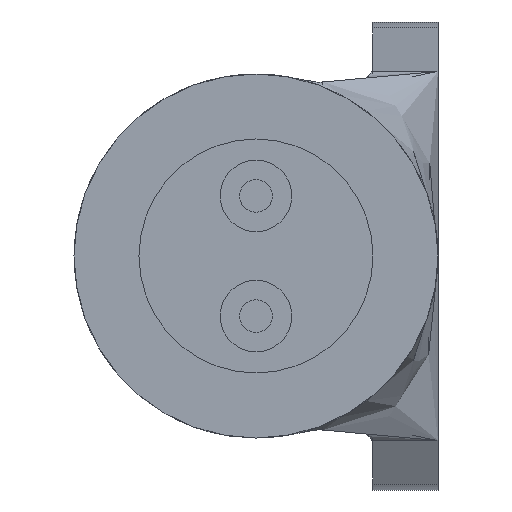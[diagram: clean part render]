
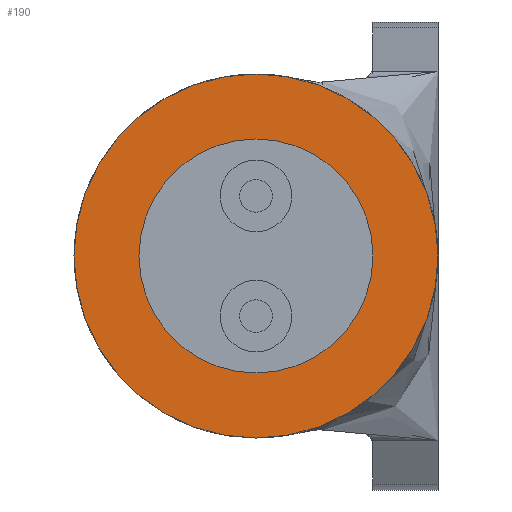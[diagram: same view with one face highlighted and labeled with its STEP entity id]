
A CAD part, left-side view. The second image highlights one B-rep face of the part: STEP entity #190.
In plain terms, the highlighted planar face has unit normal (-1, 0, 0).
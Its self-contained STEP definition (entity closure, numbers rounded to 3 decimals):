
#18 = EDGE_LOOP ( 'NONE', ( #372, #243 ) ) ;
#156 = CARTESIAN_POINT ( 'NONE',  ( -12.1, 2.8, 0. ) ) ;
#160 = DIRECTION ( 'NONE',  ( -1., 0., 0. ) ) ;
#171 = ORIENTED_EDGE ( 'NONE', *, *, #772, .T. ) ;
#178 = CARTESIAN_POINT ( 'NONE',  ( -12.1, 2.8, 1.8 ) ) ;
#179 = DIRECTION ( 'NONE',  ( 1., 0., 0. ) ) ;
#190 = ADVANCED_FACE ( 'NONE', ( #789, #1579 ), #1067, .F. ) ;
#207 = CIRCLE ( 'NONE', #1247, 2.8 ) ;
#215 = CIRCLE ( 'NONE', #1076, 1.8 ) ;
#230 = EDGE_CURVE ( 'NONE', #563, #315, #1843, .T. ) ;
#243 = ORIENTED_EDGE ( 'NONE', *, *, #1230, .F. ) ;
#245 = AXIS2_PLACEMENT_3D ( 'NONE', #619, #179, #1060 ) ;
#247 = CARTESIAN_POINT ( 'NONE',  ( -12.1, 2.8, 2.8 ) ) ;
#315 = VERTEX_POINT ( 'NONE', #178 ) ;
#333 = DIRECTION ( 'NONE',  ( -1., 0., 0. ) ) ;
#372 = ORIENTED_EDGE ( 'NONE', *, *, #230, .F. ) ;
#451 = CARTESIAN_POINT ( 'NONE',  ( -12.1, 2.8, 0. ) ) ;
#563 = VERTEX_POINT ( 'NONE', #627 ) ;
#599 = DIRECTION ( 'NONE',  ( 0., 0., -1. ) ) ;
#619 = CARTESIAN_POINT ( 'NONE',  ( -12.1, 0., 0. ) ) ;
#627 = CARTESIAN_POINT ( 'NONE',  ( -12.1, 2.8, -1.8 ) ) ;
#651 = CIRCLE ( 'NONE', #764, 2.8 ) ;
#764 = AXIS2_PLACEMENT_3D ( 'NONE', #1043, #160, #1190 ) ;
#772 = EDGE_CURVE ( 'NONE', #1291, #798, #207, .T. ) ;
#789 = FACE_OUTER_BOUND ( 'NONE', #820, .T. ) ;
#798 = VERTEX_POINT ( 'NONE', #1799 ) ;
#820 = EDGE_LOOP ( 'NONE', ( #1694, #171 ) ) ;
#1043 = CARTESIAN_POINT ( 'NONE',  ( -12.1, 2.8, 0. ) ) ;
#1060 = DIRECTION ( 'NONE',  ( 0., 0., -1. ) ) ;
#1067 = PLANE ( 'NONE',  #245 ) ;
#1076 = AXIS2_PLACEMENT_3D ( 'NONE', #1213, #333, #1354 ) ;
#1099 = AXIS2_PLACEMENT_3D ( 'NONE', #156, #1162, #1307 ) ;
#1162 = DIRECTION ( 'NONE',  ( -1., 0., 0. ) ) ;
#1174 = EDGE_CURVE ( 'NONE', #798, #1291, #651, .T. ) ;
#1190 = DIRECTION ( 'NONE',  ( 0., 0., -1. ) ) ;
#1213 = CARTESIAN_POINT ( 'NONE',  ( -12.1, 2.8, 0. ) ) ;
#1230 = EDGE_CURVE ( 'NONE', #315, #563, #215, .T. ) ;
#1247 = AXIS2_PLACEMENT_3D ( 'NONE', #451, #1477, #599 ) ;
#1291 = VERTEX_POINT ( 'NONE', #247 ) ;
#1307 = DIRECTION ( 'NONE',  ( 0., 0., -1. ) ) ;
#1354 = DIRECTION ( 'NONE',  ( 0., 0., -1. ) ) ;
#1477 = DIRECTION ( 'NONE',  ( -1., 0., 0. ) ) ;
#1579 = FACE_BOUND ( 'NONE', #18, .T. ) ;
#1694 = ORIENTED_EDGE ( 'NONE', *, *, #1174, .T. ) ;
#1799 = CARTESIAN_POINT ( 'NONE',  ( -12.1, 2.8, -2.8 ) ) ;
#1843 = CIRCLE ( 'NONE', #1099, 1.8 ) ;
